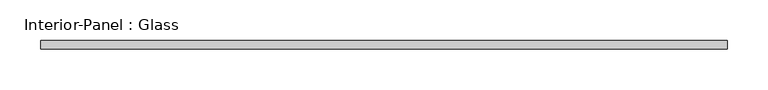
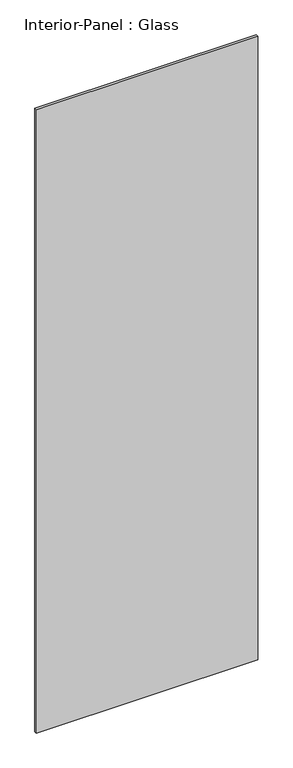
"""IFC4 building model written with IfcOpenShell, lengths in millimetres: plate geometry, Interior-Panel : Glass."""

import ifcopenshell
import ifcopenshell.guid

model = None  # the IFC model being written
_history = None  # IfcOwnerHistory: only IFC2X3 demands one
_inside = {}  # id of a spatial element -> (the spatial element, [elements in it])
_under = {}  # id of a project, library or spatial element -> (it, [spatial elements below it])
_declared = {}  # id of a project -> (the project, [libraries it declares])
_typed = {}  # id of a type object -> (the type object, [elements of that type])
_made_of = {}  # id of a material, layer set ... -> (it, [elements and type objects made of it])


def new_model(schema):
    """Start an empty IFC model of exactly this schema.

    Asked for "IFC4X3", IfcOpenShell would pick the latest addendum, in which some entities
    have other attributes; the version numbers below select the first issue.
    IFC2X3 requires an IfcOwnerHistory on every rooted entity: one is made here for all.
    """
    global model, _history
    if schema == "IFC4X3":
        model = ifcopenshell.file(schema_version=(4, 3, 0, 0))
    else:
        model = ifcopenshell.file(schema=schema)
    _inside.clear()
    _under.clear()
    _declared.clear()
    _typed.clear()
    _made_of.clear()
    _history = None
    if model.schema == "IFC2X3":
        org = make("IfcOrganization", Name="unknown")
        user = make(
            "IfcPersonAndOrganization",
            ThePerson=make("IfcPerson", FamilyName="unknown"),
            TheOrganization=org,
        )
        app = make(
            "IfcApplication",
            ApplicationDeveloper=org,
            Version="unknown",
            ApplicationFullName="unknown",
            ApplicationIdentifier="unknown",
        )
        _history = make(
            "IfcOwnerHistory",
            OwningUser=user,
            OwningApplication=app,
            ChangeAction="ADDED",
            CreationDate=0,
        )
    return model


def make(cls, **values):
    """One entity of the class cls with the attributes given. An attribute that is None is left unset."""
    return model.create_entity(
        cls, **{name: value for name, value in values.items() if value is not None}
    )


def rooted(cls, **values):
    """An entity with a GlobalId (a new one), such as an element, a storey or a relation."""
    return make(cls, GlobalId=ifcopenshell.guid.new(), OwnerHistory=_history, **values)


def si_unit(unit_type, name, prefix=None):
    """IfcSIUnit, for example si_unit("LENGTHUNIT", "METRE", prefix="MILLI")."""
    return make("IfcSIUnit", UnitType=unit_type, Prefix=prefix, Name=name)


def assignment(units):
    """IfcUnitAssignment: the units of a project."""
    return None if units is None else make("IfcUnitAssignment", Units=units)


def point(xyz):
    """IfcCartesianPoint."""
    return None if xyz is None else make("IfcCartesianPoint", Coordinates=xyz)


def direction(xyz):
    """IfcDirection."""
    return None if xyz is None else make("IfcDirection", DirectionRatios=xyz)


def frame(location, z_axis=None, x_axis=None):
    """IfcAxis2Placement3D, a coordinate frame: its origin and axes. An axis left out is left unset."""
    return make(
        "IfcAxis2Placement3D",
        Location=point(location),
        Axis=direction(z_axis),
        RefDirection=direction(x_axis),
    )


def origin():
    """The frame at (0, 0, 0) with its axes left unset."""
    return frame((0.0, 0.0, 0.0))


def origin_with_axes():
    """The frame at (0, 0, 0) with the z axis (0, 0, 1) and the x axis (1, 0, 0) written out."""
    return frame((0.0, 0.0, 0.0), z_axis=(0.0, 0.0, 1.0), x_axis=(1.0, 0.0, 0.0))


def place(relative_to, where):
    """IfcLocalPlacement: puts the frame where relative to a parent placement (None: the world)."""
    return make(
        "IfcLocalPlacement", PlacementRelTo=relative_to, RelativePlacement=where
    )


def context(
    kind, dimensions, precision=None, world=None, true_north=None, identifier=None
):
    """IfcGeometricRepresentationContext, for example the 3D "Model" context."""
    return make(
        "IfcGeometricRepresentationContext",
        ContextIdentifier=identifier,
        ContextType=kind,
        CoordinateSpaceDimension=dimensions,
        Precision=precision,
        WorldCoordinateSystem=world,
        TrueNorth=true_north,
    )


def project(units=None, contexts=None):
    """IfcProject with its units and contexts."""
    return rooted(
        "IfcProject",
        Name="project",
        RepresentationContexts=contexts,
        UnitsInContext=assignment(units),
    )


def spatial(cls, under=None, at=None, **own):
    """A site, building, storey or space (cls), placed at a placement, below another one or the project."""
    s = rooted(cls, ObjectPlacement=at, **own)
    if under is not None:
        _under.setdefault(under.id(), (under, []))[1].append(s)
    return s


def polyline(points):
    """IfcPolyline through the points."""
    return make("IfcPolyline", Points=[point(p) for p in points])


def outline(outer, holes=None, kind="AREA"):
    """IfcArbitraryClosedProfileDef: a profile drawn as a closed curve; with holes, ...WithVoids."""
    if holes is None:
        return make("IfcArbitraryClosedProfileDef", ProfileType=kind, OuterCurve=outer)
    return make(
        "IfcArbitraryProfileDefWithVoids",
        ProfileType=kind,
        OuterCurve=outer,
        InnerCurves=holes,
    )


def extrude(swept, where, along, depth):
    """IfcExtrudedAreaSolid: the profile swept, set in the frame where, extruded along a direction by depth."""
    return make(
        "IfcExtrudedAreaSolid",
        SweptArea=swept,
        Position=where,
        ExtrudedDirection=direction(along),
        Depth=depth,
    )


def shape(context_of_items, identifier, shape_type, items):
    """IfcShapeRepresentation: the items that make up one representation, for example the "Body"."""
    return make(
        "IfcShapeRepresentation",
        ContextOfItems=context_of_items,
        RepresentationIdentifier=identifier,
        RepresentationType=shape_type,
        Items=items,
    )


def source(mapping_origin, context_of_items, identifier, shape_type, items):
    """IfcRepresentationMap: a shape defined once, which mapped items show again and again."""
    return make(
        "IfcRepresentationMap",
        MappingOrigin=mapping_origin,
        MappedRepresentation=shape(context_of_items, identifier, shape_type, items),
    )


def transform(
    local_origin,
    x_axis=None,
    y_axis=None,
    z_axis=None,
    scale=None,
    scale2=None,
    scale3=None,
    uniform=True,
):
    """IfcCartesianTransformationOperator3D, or its non-uniform kind. x_axis, y_axis, z_axis: its Axis1, 2, 3."""
    if uniform:
        return make(
            "IfcCartesianTransformationOperator3D",
            Axis1=direction(x_axis),
            Axis2=direction(y_axis),
            LocalOrigin=point(local_origin),
            Scale=scale,
            Axis3=direction(z_axis),
        )
    return make(
        "IfcCartesianTransformationOperator3DnonUniform",
        Axis1=direction(x_axis),
        Axis2=direction(y_axis),
        LocalOrigin=point(local_origin),
        Scale=scale,
        Axis3=direction(z_axis),
        Scale2=scale2,
        Scale3=scale3,
    )


def mapped(mapping_source, mapping_target):
    """IfcMappedItem: shows the shape of a source again, moved by a transform."""
    return make(
        "IfcMappedItem", MappingSource=mapping_source, MappingTarget=mapping_target
    )


def made_of(thing, what):
    """Note that an element or type object is made of a material, layer set ...; save() writes the relation."""
    if what is not None:
        _made_of.setdefault(what.id(), (what, []))[1].append(thing)
    return thing


def element(
    cls,
    number,
    at=None,
    inside=None,
    cuts=None,
    type_object=None,
    material=None,
    context=None,
    identifier="Body",
    shape_type=None,
    held_by="IfcProductDefinitionShape",
    body=None,
    shapes=None,
    **own,
):
    """One element of the class cls, such as IfcWall. Its Tag is "e" and its number.

    at: its placement. inside: the storey or other place that contains it. cuts: it is an
    opening in that element (IfcRelVoidsElement). A single representation is given by context,
    identifier, shape_type and body (its items); several are given by shapes. held_by: the class
    of the entity that holds the representations. save() writes the other relations.
    """
    e = rooted(cls, Tag="e%d" % number, ObjectPlacement=at, **own)
    if body is not None:
        shapes = [shape(context, identifier, shape_type, body)]
    if shapes is not None:
        e.Representation = make(held_by, Representations=shapes)
    if inside is not None:
        _inside.setdefault(inside.id(), (inside, []))[1].append(e)
    if cuts is not None:
        rooted(
            "IfcRelVoidsElement", RelatingBuildingElement=cuts, RelatedOpeningElement=e
        )
    if type_object is not None:
        _typed.setdefault(type_object.id(), (type_object, []))[1].append(e)
    return made_of(e, material)


def aggregate(whole, parts):
    """IfcRelAggregates: a whole, such as a stair, and the parts it consists of."""
    return rooted("IfcRelAggregates", RelatingObject=whole, RelatedObjects=parts)


def save(model, path):
    """Write the relations noted so far, then the file.

    IfcRelAggregates (storeys below a building ...), IfcRelContainedInSpatialStructure (elements
    in a storey), IfcRelDefinesByType, IfcRelAssociatesMaterial and IfcRelDeclares: one each for
    every whole, place, type object, material and project.
    """
    for whole, parts in _under.values():
        aggregate(whole, parts)
    for where, things in _inside.values():
        rooted(
            "IfcRelContainedInSpatialStructure",
            RelatedElements=things,
            RelatingStructure=where,
        )
    for kind, things in _typed.values():
        rooted("IfcRelDefinesByType", RelatedObjects=things, RelatingType=kind)
    for what, things in _made_of.values():
        rooted("IfcRelAssociatesMaterial", RelatedObjects=things, RelatingMaterial=what)
    for by, libraries in _declared.values():
        rooted("IfcRelDeclares", RelatingContext=by, RelatedDefinitions=libraries)
    model.write(path)


def interior_panel_glass_c4700e78(model_context):
    return source(origin(), model_context, "Body", "SweptSolid", [
        extrude(outline(polyline([(420.0, 50.0), (420.0, 40.0), (-420.0, 40.0), (-420.0, 50.0), (420.0, 50.0)])), origin_with_axes(), (0.0, 0.0, 1.0), 2500.0),
    ])


if __name__ == "__main__":
    model = new_model("IFC4")
    model_context = context("Model", 3, world=origin())
    ifc_project = project(units=[si_unit("LENGTHUNIT", "METRE", prefix="MILLI")], contexts=[model_context])
    site = spatial("IfcSite", under=ifc_project)
    building = spatial("IfcBuilding", under=site)
    placement = place(None, origin())
    interior_panel_glass_shape = interior_panel_glass_c4700e78(model_context)
    element("IfcPlate", 1, ObjectType="Interior-Panel : Glass", at=placement, inside=building, context=model_context, shape_type="MappedRepresentation", body=[
        mapped(interior_panel_glass_shape, transform((0.0, 0.0, 0.0), x_axis=(1.0, 0.0, 0.0), y_axis=(0.0, 1.0, 0.0), z_axis=(0.0, 0.0, 1.0))),
    ])
    save(model, "model.ifc")
